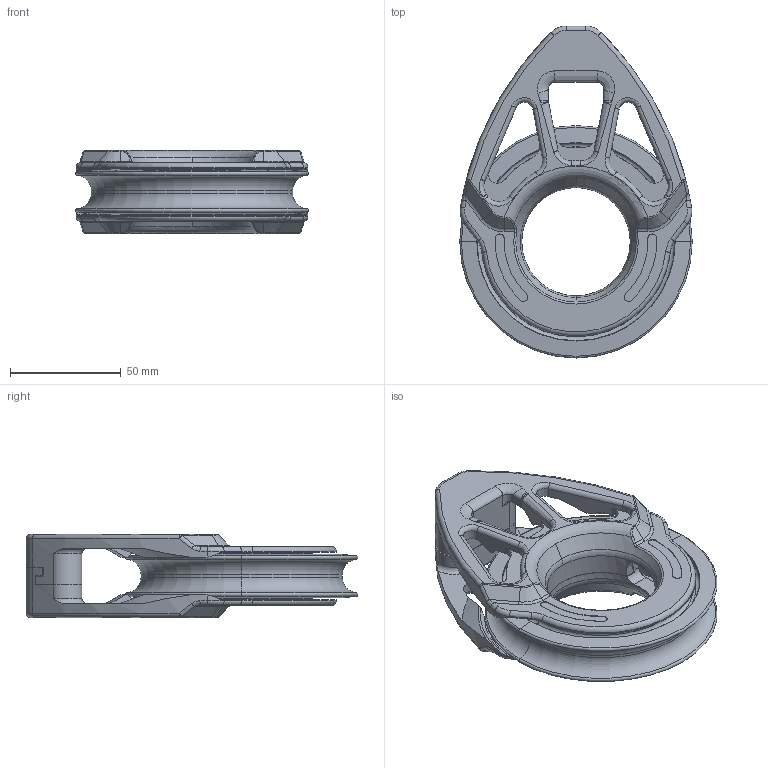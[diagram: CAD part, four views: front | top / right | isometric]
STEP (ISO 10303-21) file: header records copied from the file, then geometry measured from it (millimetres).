
FILE_DESCRIPTION((''),'2;1');
FILE_NAME('29901107_ASM','2005-05-31T',('NBelton'),(''),'PRO/ENGINEER BY PARAMETRIC TECHNOLOGY CORPORATION, 2004320','PRO/ENGINEER BY PARAMETRIC TECHNOLOGY CORPORATION, 2004320','');
FILE_SCHEMA(('CONFIG_CONTROL_DESIGN'));
Length unit declared in the file: millimetre
Products named in the file (5): 25002264; 25002265; 25000621; B5033-A4; 29901107_ASM
Assembly tree (4 placements, depth 2):
  29901107_ASM
    25002264
    25002265
    25000621
    B5033-A4
Bounding box: 105 x 149.97 x 37.56 mm (x, y, z)
Volume: 146911.4 mm3; surface area: 73621.3 mm2
Topology: 4 solids, 4 shells, 515 faces, 1310 edges, 809 vertices
Faces by surface type: cylinder 196, plane 119, torus 98, bspline 53, cone 45, sphere 4
Entity records: 18483 total; most frequent: CARTESIAN_POINT 5916, DIRECTION 2712, ORIENTED_EDGE 2620, EDGE_CURVE 1310, AXIS2_PLACEMENT_3D 1121, VERTEX_POINT 809, CIRCLE 650, EDGE_LOOP 541
